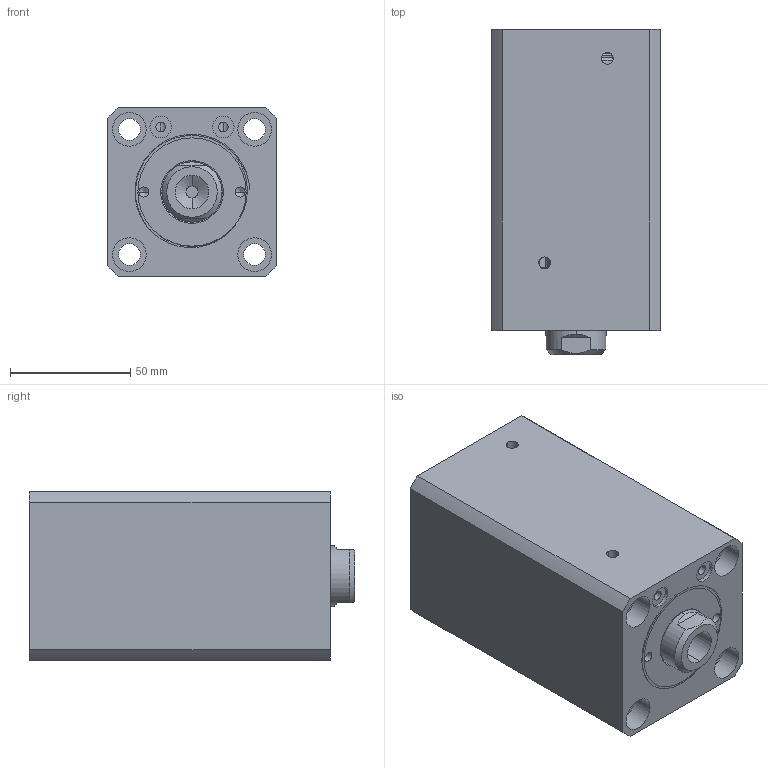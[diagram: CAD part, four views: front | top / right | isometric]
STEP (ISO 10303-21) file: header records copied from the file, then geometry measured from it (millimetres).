
FILE_DESCRIPTION (( 'STEP AP214' ), '1' );
FILE_NAME ('chtb-sdma40x70n_asm.STEP', '2018-06-06T06:24:15', ( 'Windows' ), ( 'Microsoft' ), 'SwSTEP 2.0', 'SolidWorks 2015', '' );
FILE_SCHEMA (( 'AUTOMOTIVE_DESIGN' ));
Length unit declared in the file: millimetre
Products named in the file (4): CHTB-SD40QG; CHTB-SDMA40X70NBT; CHTB-SD40X70NHSG; chtb-sdma40x70n_asm
Assembly tree (3 placements, depth 2):
  chtb-sdma40x70n_asm
    CHTB-SD40X70NHSG
    CHTB-SDMA40X70NBT
    CHTB-SD40QG
Bounding box: 70 x 135 x 70 mm (x, y, z)
Volume: 508082.5 mm3; surface area: 102055.3 mm2
Topology: 3 solids, 3 shells, 157 faces, 413 edges, 274 vertices
Faces by surface type: cylinder 84, plane 36, torus 14, bspline 14, cone 9
Entity records: 10139 total; most frequent: CARTESIAN_POINT 6157, ORIENTED_EDGE 814, DIRECTION 768, EDGE_CURVE 407, AXIS2_PLACEMENT_3D 326, VERTEX_POINT 274, EDGE_LOOP 193, CIRCLE 177
